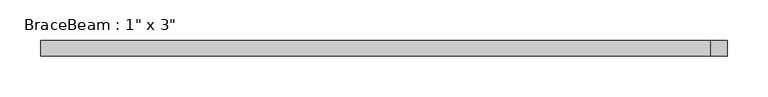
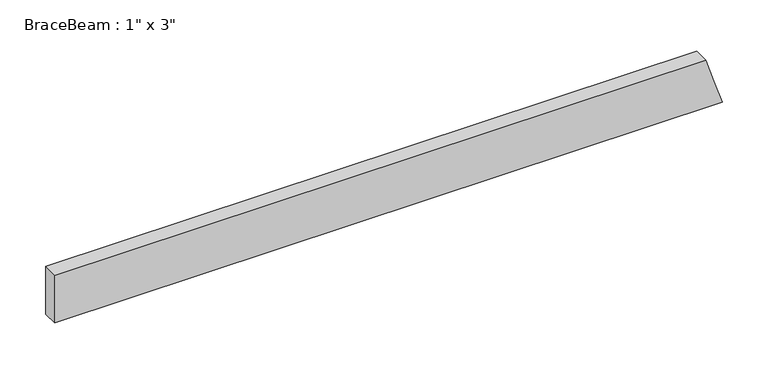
"""IFC4 building model written with IfcOpenShell, lengths in millimetres: beam geometry."""

from ifc_helpers import new_model, si_unit, origin, place, context, project, spatial, faceted_brep, source, transform, mapped, element, save


def beam_e763cc3c(model_context):
    return source(origin(), model_context, "Body", "Brep", [
        faceted_brep([(-415.0048404, -9.525, -31.75), (-415.0048404, 9.525, -31.75), (423.7193178, 9.525, -31.75), (423.7193178, -9.525, -31.75), (-415.0048404, 9.525, 31.75), (402.9936234, 9.525, 31.75), (413.3564706, 9.525, 0.0), (-415.0048404, -9.525, 31.75), (402.9936234, -9.525, 31.75), (413.3564706, -9.525, 0.0)], [[[0, 1, 2, 3]], [[1, 4, 5, 6, 2]], [[4, 7, 8, 5]], [[7, 0, 3, 9, 8]], [[7, 4, 1, 0]], [[5, 8, 9, 3, 2, 6]]]),
    ])


if __name__ == "__main__":
    model = new_model("IFC4")
    model_context = context("Model", 3, world=origin())
    ifc_project = project(units=[si_unit("LENGTHUNIT", "METRE", prefix="MILLI")], contexts=[model_context])
    site = spatial("IfcSite", under=ifc_project)
    building = spatial("IfcBuilding", under=site)
    placement = place(None, origin())
    beam_shape = beam_e763cc3c(model_context)
    element("IfcBeam", 1, ObjectType="BraceBeam : 1\" x 3\"", at=placement, inside=building, context=model_context, shape_type="MappedRepresentation", body=[
        mapped(beam_shape, transform((0.0, 0.0, 0.0), x_axis=(1.0, 0.0, 0.0), y_axis=(0.0, 1.0, 0.0), z_axis=(0.0, 0.0, 1.0))),
    ])
    save(model, "model.ifc")
